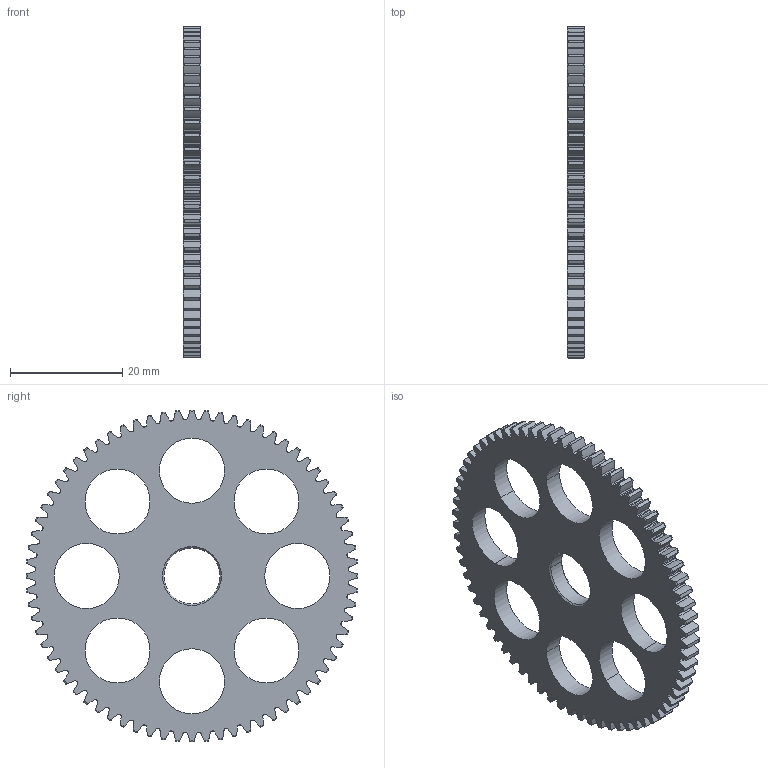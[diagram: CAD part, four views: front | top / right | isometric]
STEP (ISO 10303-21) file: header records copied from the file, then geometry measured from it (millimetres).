
FILE_DESCRIPTION((''),'2;1');
FILE_NAME('S12A08M072N0310','2022-02-22T',('SYSTEM'),(''),'PRO/ENGINEER BY PARAMETRIC TECHNOLOGY CORPORATION, 2016360','PRO/ENGINEER BY PARAMETRIC TECHNOLOGY CORPORATION, 2016360','');
FILE_SCHEMA(('AUTOMOTIVE_DESIGN { 1 0 10303 214 1 1 1 1 }'));
Length unit declared in the file: millimetre
Products named in the file (1): S12A08M072N0310
Bounding box: 3.2 x 59.2 x 59.2 mm (x, y, z)
Volume: 5355.9 mm3; surface area: 5473.9 mm2
Topology: 1 solids, 1 shells, 600 faces, 1790 edges, 1192 vertices
Faces by surface type: cylinder 306, torus 144, extrusion 144, cone 4, plane 2
Entity records: 25227 total; most frequent: CARTESIAN_POINT 9288, ORIENTED_EDGE 3580, DIRECTION 3030, EDGE_CURVE 1790, AXIS2_PLACEMENT_3D 1216, VERTEX_POINT 1192, CIRCLE 760, B_SPLINE_CURVE_WITH_KNOTS 720
